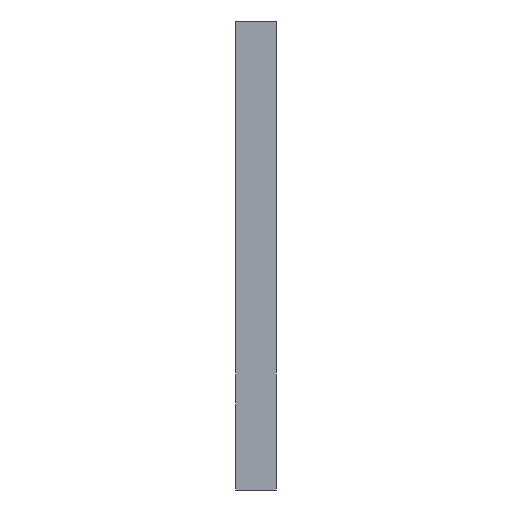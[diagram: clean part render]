
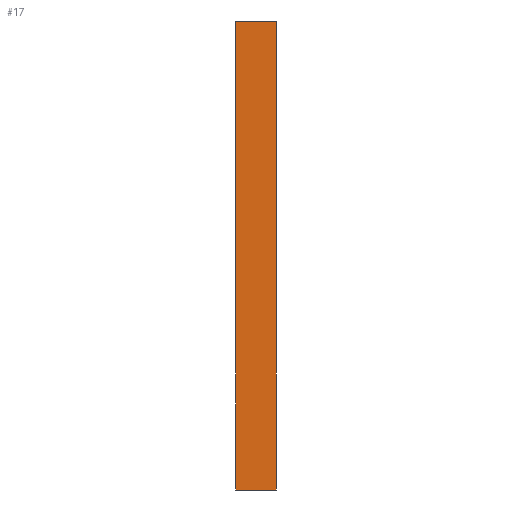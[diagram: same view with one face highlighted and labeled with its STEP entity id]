
A CAD part, left-side view. The second image highlights one B-rep face of the part: STEP entity #17.
In plain terms, the highlighted planar face has unit normal (-1, 0, 0).
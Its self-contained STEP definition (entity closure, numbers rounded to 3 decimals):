
#17 = ADVANCED_FACE('',(#18),#32,.F.);
#18 = FACE_BOUND('',#19,.F.);
#19 = EDGE_LOOP('',(#20,#55,#83,#111));
#20 = ORIENTED_EDGE('',*,*,#21,.F.);
#21 = EDGE_CURVE('',#22,#24,#26,.T.);
#22 = VERTEX_POINT('',#23);
#23 = CARTESIAN_POINT('',(-20.,2.,0.));
#24 = VERTEX_POINT('',#25);
#25 = CARTESIAN_POINT('',(-20.,2.,23.));
#26 = SURFACE_CURVE('',#27,(#31,#43),.PCURVE_S1.);
#27 = LINE('',#28,#29);
#28 = CARTESIAN_POINT('',(-20.,2.,0.));
#29 = VECTOR('',#30,1.);
#30 = DIRECTION('',(0.,0.,1.));
#31 = PCURVE('',#32,#37);
#32 = PLANE('',#33);
#33 = AXIS2_PLACEMENT_3D('',#34,#35,#36);
#34 = CARTESIAN_POINT('',(-20.,2.,0.));
#35 = DIRECTION('',(1.,0.,0.));
#36 = DIRECTION('',(0.,0.,1.));
#37 = DEFINITIONAL_REPRESENTATION('',(#38),#42);
#38 = LINE('',#39,#40);
#39 = CARTESIAN_POINT('',(0.,0.));
#40 = VECTOR('',#41,1.);
#41 = DIRECTION('',(1.,0.));
#42 = ( GEOMETRIC_REPRESENTATION_CONTEXT(2) 
PARAMETRIC_REPRESENTATION_CONTEXT() REPRESENTATION_CONTEXT('2D SPACE',''
  ) );
#43 = PCURVE('',#44,#49);
#44 = PLANE('',#45);
#45 = AXIS2_PLACEMENT_3D('',#46,#47,#48);
#46 = CARTESIAN_POINT('',(-20.,2.,0.));
#47 = DIRECTION('',(0.,1.,0.));
#48 = DIRECTION('',(0.,0.,1.));
#49 = DEFINITIONAL_REPRESENTATION('',(#50),#54);
#50 = LINE('',#51,#52);
#51 = CARTESIAN_POINT('',(0.,0.));
#52 = VECTOR('',#53,1.);
#53 = DIRECTION('',(1.,0.));
#54 = ( GEOMETRIC_REPRESENTATION_CONTEXT(2) 
PARAMETRIC_REPRESENTATION_CONTEXT() REPRESENTATION_CONTEXT('2D SPACE',''
  ) );
#55 = ORIENTED_EDGE('',*,*,#56,.T.);
#56 = EDGE_CURVE('',#22,#57,#59,.T.);
#57 = VERTEX_POINT('',#58);
#58 = CARTESIAN_POINT('',(-20.,4.,0.));
#59 = SURFACE_CURVE('',#60,(#64,#71),.PCURVE_S1.);
#60 = LINE('',#61,#62);
#61 = CARTESIAN_POINT('',(-20.,2.,0.));
#62 = VECTOR('',#63,1.);
#63 = DIRECTION('',(0.,1.,0.));
#64 = PCURVE('',#32,#65);
#65 = DEFINITIONAL_REPRESENTATION('',(#66),#70);
#66 = LINE('',#67,#68);
#67 = CARTESIAN_POINT('',(0.,0.));
#68 = VECTOR('',#69,1.);
#69 = DIRECTION('',(0.,-1.));
#70 = ( GEOMETRIC_REPRESENTATION_CONTEXT(2) 
PARAMETRIC_REPRESENTATION_CONTEXT() REPRESENTATION_CONTEXT('2D SPACE',''
  ) );
#71 = PCURVE('',#72,#77);
#72 = PLANE('',#73);
#73 = AXIS2_PLACEMENT_3D('',#74,#75,#76);
#74 = CARTESIAN_POINT('',(-20.,2.,0.));
#75 = DIRECTION('',(0.,0.,1.));
#76 = DIRECTION('',(1.,0.,0.));
#77 = DEFINITIONAL_REPRESENTATION('',(#78),#82);
#78 = LINE('',#79,#80);
#79 = CARTESIAN_POINT('',(0.,0.));
#80 = VECTOR('',#81,1.);
#81 = DIRECTION('',(0.,1.));
#82 = ( GEOMETRIC_REPRESENTATION_CONTEXT(2) 
PARAMETRIC_REPRESENTATION_CONTEXT() REPRESENTATION_CONTEXT('2D SPACE',''
  ) );
#83 = ORIENTED_EDGE('',*,*,#84,.T.);
#84 = EDGE_CURVE('',#57,#85,#87,.T.);
#85 = VERTEX_POINT('',#86);
#86 = CARTESIAN_POINT('',(-20.,4.,23.));
#87 = SURFACE_CURVE('',#88,(#92,#99),.PCURVE_S1.);
#88 = LINE('',#89,#90);
#89 = CARTESIAN_POINT('',(-20.,4.,0.));
#90 = VECTOR('',#91,1.);
#91 = DIRECTION('',(0.,0.,1.));
#92 = PCURVE('',#32,#93);
#93 = DEFINITIONAL_REPRESENTATION('',(#94),#98);
#94 = LINE('',#95,#96);
#95 = CARTESIAN_POINT('',(0.,-2.));
#96 = VECTOR('',#97,1.);
#97 = DIRECTION('',(1.,0.));
#98 = ( GEOMETRIC_REPRESENTATION_CONTEXT(2) 
PARAMETRIC_REPRESENTATION_CONTEXT() REPRESENTATION_CONTEXT('2D SPACE',''
  ) );
#99 = PCURVE('',#100,#105);
#100 = PLANE('',#101);
#101 = AXIS2_PLACEMENT_3D('',#102,#103,#104);
#102 = CARTESIAN_POINT('',(-20.,4.,0.));
#103 = DIRECTION('',(0.,1.,0.));
#104 = DIRECTION('',(0.,0.,1.));
#105 = DEFINITIONAL_REPRESENTATION('',(#106),#110);
#106 = LINE('',#107,#108);
#107 = CARTESIAN_POINT('',(0.,0.));
#108 = VECTOR('',#109,1.);
#109 = DIRECTION('',(1.,0.));
#110 = ( GEOMETRIC_REPRESENTATION_CONTEXT(2) 
PARAMETRIC_REPRESENTATION_CONTEXT() REPRESENTATION_CONTEXT('2D SPACE',''
  ) );
#111 = ORIENTED_EDGE('',*,*,#112,.F.);
#112 = EDGE_CURVE('',#24,#85,#113,.T.);
#113 = SURFACE_CURVE('',#114,(#118,#125),.PCURVE_S1.);
#114 = LINE('',#115,#116);
#115 = CARTESIAN_POINT('',(-20.,2.,23.));
#116 = VECTOR('',#117,1.);
#117 = DIRECTION('',(0.,1.,0.));
#118 = PCURVE('',#32,#119);
#119 = DEFINITIONAL_REPRESENTATION('',(#120),#124);
#120 = LINE('',#121,#122);
#121 = CARTESIAN_POINT('',(23.,0.));
#122 = VECTOR('',#123,1.);
#123 = DIRECTION('',(0.,-1.));
#124 = ( GEOMETRIC_REPRESENTATION_CONTEXT(2) 
PARAMETRIC_REPRESENTATION_CONTEXT() REPRESENTATION_CONTEXT('2D SPACE',''
  ) );
#125 = PCURVE('',#126,#131);
#126 = PLANE('',#127);
#127 = AXIS2_PLACEMENT_3D('',#128,#129,#130);
#128 = CARTESIAN_POINT('',(-20.,2.,23.));
#129 = DIRECTION('',(0.,0.,1.));
#130 = DIRECTION('',(1.,0.,0.));
#131 = DEFINITIONAL_REPRESENTATION('',(#132),#136);
#132 = LINE('',#133,#134);
#133 = CARTESIAN_POINT('',(0.,0.));
#134 = VECTOR('',#135,1.);
#135 = DIRECTION('',(0.,1.));
#136 = ( GEOMETRIC_REPRESENTATION_CONTEXT(2) 
PARAMETRIC_REPRESENTATION_CONTEXT() REPRESENTATION_CONTEXT('2D SPACE',''
  ) );
